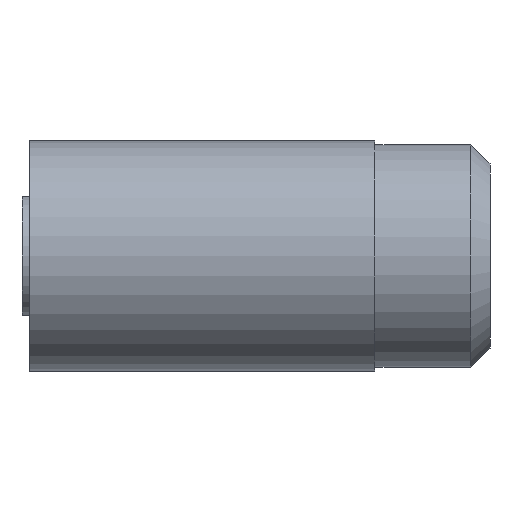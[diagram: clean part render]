
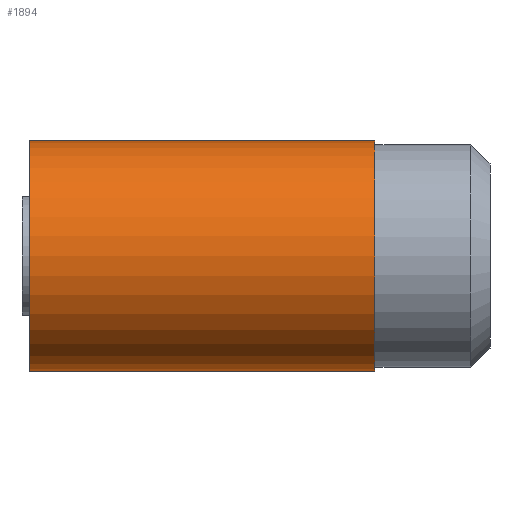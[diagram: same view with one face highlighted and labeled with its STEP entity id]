
A CAD part, left-side view. The second image highlights one B-rep face of the part: STEP entity #1894.
In plain terms, the highlighted cylindrical face has radius 3 mm (diameter 6 mm), a full revolution.
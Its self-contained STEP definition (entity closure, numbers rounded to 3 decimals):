
#19 = CYLINDRICAL_SURFACE ( 'NONE', #1569, 3. ) ;
#361 = CARTESIAN_POINT ( 'NONE',  ( 0., 4., 0. ) ) ;
#757 = CARTESIAN_POINT ( 'NONE',  ( 0., 12., 0. ) ) ;
#1096 = CIRCLE ( 'NONE', #3789, 3. ) ;
#1183 = FACE_OUTER_BOUND ( 'NONE', #1859, .T. ) ;
#1289 = DIRECTION ( 'NONE',  ( 0., -1., 0. ) ) ;
#1385 = DIRECTION ( 'NONE',  ( 0., -1., 0. ) ) ;
#1569 = AXIS2_PLACEMENT_3D ( 'NONE', #361, #3378, #1849 ) ;
#1849 = DIRECTION ( 'NONE',  ( 0., 0., -1. ) ) ;
#1859 = EDGE_LOOP ( 'NONE', ( #3292 ) ) ;
#1894 = ADVANCED_FACE ( 'NONE', ( #1183, #2917 ), #19, .T. ) ;
#2162 = CARTESIAN_POINT ( 'NONE',  ( 0., 3., 0. ) ) ;
#2218 = VERTEX_POINT ( 'NONE', #3155 ) ;
#2244 = EDGE_CURVE ( 'NONE', #2548, #2548, #1096, .T. ) ;
#2336 = EDGE_LOOP ( 'NONE', ( #2684 ) ) ;
#2548 = VERTEX_POINT ( 'NONE', #3138 ) ;
#2684 = ORIENTED_EDGE ( 'NONE', *, *, #2244, .T. ) ;
#2726 = AXIS2_PLACEMENT_3D ( 'NONE', #2162, #1289, #3647 ) ;
#2917 = FACE_OUTER_BOUND ( 'NONE', #2336, .T. ) ;
#3138 = CARTESIAN_POINT ( 'NONE',  ( 0., 12., -3. ) ) ;
#3155 = CARTESIAN_POINT ( 'NONE',  ( 0., 3., -3. ) ) ;
#3292 = ORIENTED_EDGE ( 'NONE', *, *, #3709, .F. ) ;
#3378 = DIRECTION ( 'NONE',  ( 0., -1., 0. ) ) ;
#3483 = DIRECTION ( 'NONE',  ( 0., 0., -1. ) ) ;
#3512 = CIRCLE ( 'NONE', #2726, 3. ) ;
#3647 = DIRECTION ( 'NONE',  ( 0., 0., -1. ) ) ;
#3709 = EDGE_CURVE ( 'NONE', #2218, #2218, #3512, .T. ) ;
#3789 = AXIS2_PLACEMENT_3D ( 'NONE', #757, #1385, #3483 ) ;
